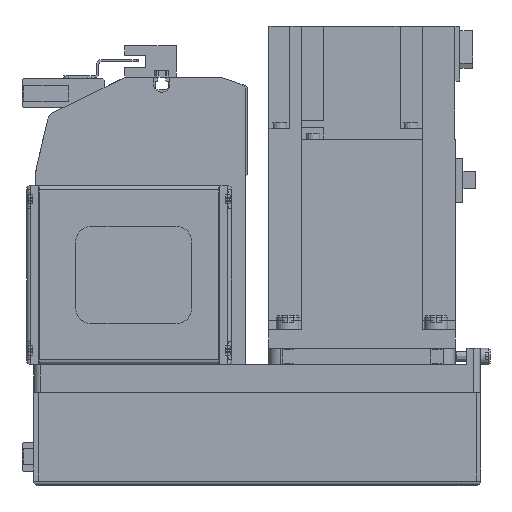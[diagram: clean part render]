
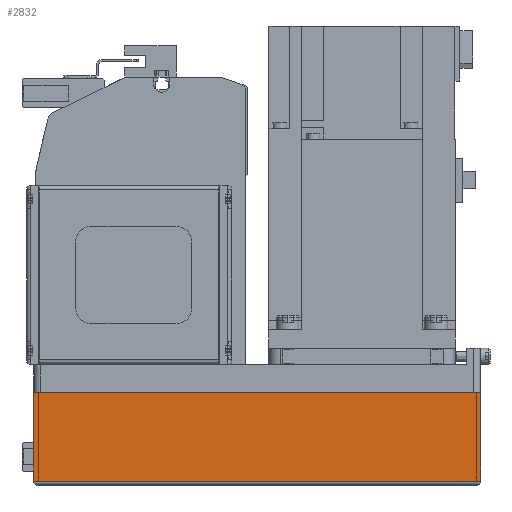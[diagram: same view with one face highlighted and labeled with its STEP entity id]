
A CAD part, left-side view. The second image highlights one B-rep face of the part: STEP entity #2832.
In plain terms, the highlighted planar face has unit normal (-1, 0, 0) as drawn and (0, 1, 0) by its records, which use the part's own axes.
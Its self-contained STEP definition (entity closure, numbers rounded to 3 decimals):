
#2832 = ADVANCED_FACE( '', ( #6173 ), #6174, .T. );
#6173 = FACE_OUTER_BOUND( '', #9915, .T. );
#6174 = PLANE( '', #9916 );
#9915 = EDGE_LOOP( '', ( #17846, #17847, #17848, #17849 ) );
#9916 = AXIS2_PLACEMENT_3D( '', #17850, #17851, #17852 );
#17846 = ORIENTED_EDGE( '', *, *, #22023, .F. );
#17847 = ORIENTED_EDGE( '', *, *, #23137, .F. );
#17848 = ORIENTED_EDGE( '', *, *, #24104, .T. );
#17849 = ORIENTED_EDGE( '', *, *, #24105, .T. );
#17850 = CARTESIAN_POINT( '', ( -192., 40., -50. ) );
#17851 = DIRECTION( '', ( 0., 1., 0. ) );
#17852 = DIRECTION( '', ( 0., 0., 1. ) );
#22023 = EDGE_CURVE( '', #25006, #26674, #26675, .T. );
#23137 = EDGE_CURVE( '', #28417, #25006, #28419, .T. );
#24104 = EDGE_CURVE( '', #28417, #27293, #29712, .T. );
#24105 = EDGE_CURVE( '', #27293, #26674, #29713, .T. );
#25006 = VERTEX_POINT( '', #30837 );
#26674 = VERTEX_POINT( '', #33623 );
#26675 = LINE( '', #33624, #33625 );
#27293 = VERTEX_POINT( '', #34846 );
#28417 = VERTEX_POINT( '', #36490 );
#28419 = LINE( '', #36492, #36493 );
#29712 = LINE( '', #38371, #38372 );
#29713 = LINE( '', #38373, #38374 );
#30837 = CARTESIAN_POINT( '', ( 0., 40., -50. ) );
#33623 = CARTESIAN_POINT( '', ( 0., 40., -12.1 ) );
#33624 = CARTESIAN_POINT( '', ( 0., 40., -50. ) );
#33625 = VECTOR( '', #40782, 1000. );
#34846 = CARTESIAN_POINT( '', ( -192., 40., -12.1 ) );
#36490 = CARTESIAN_POINT( '', ( -192., 40., -50. ) );
#36492 = CARTESIAN_POINT( '', ( -192., 40., -50. ) );
#36493 = VECTOR( '', #42218, 1000. );
#38371 = CARTESIAN_POINT( '', ( -192., 40., -50. ) );
#38372 = VECTOR( '', #43206, 1000. );
#38373 = CARTESIAN_POINT( '', ( -192., 40., -12.1 ) );
#38374 = VECTOR( '', #43207, 1000. );
#40782 = DIRECTION( '', ( 0., 0., 1. ) );
#42218 = DIRECTION( '', ( 1., 0., 0. ) );
#43206 = DIRECTION( '', ( 0., 0., 1. ) );
#43207 = DIRECTION( '', ( 1., 0., 0. ) );
